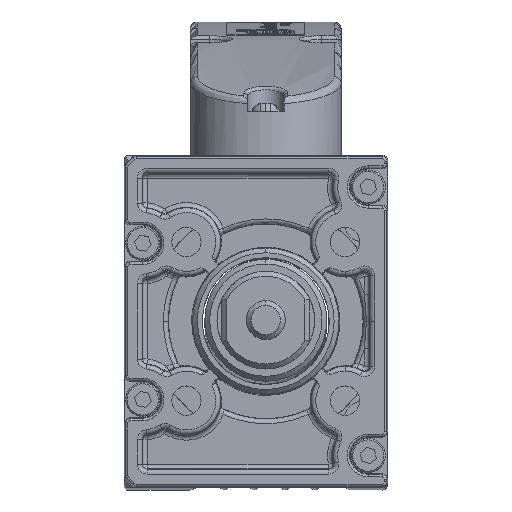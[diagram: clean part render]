
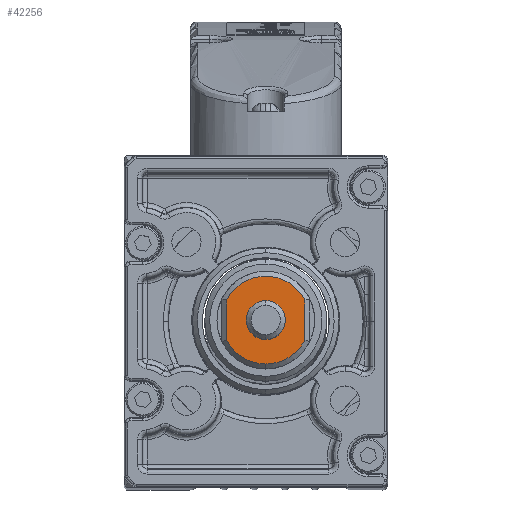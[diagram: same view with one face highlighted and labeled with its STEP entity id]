
A CAD part, top view. The second image highlights one B-rep face of the part: STEP entity #42256.
In plain terms, the highlighted planar face has unit normal (0, 0, 1) as drawn and (0, 0, -1) by its records, which use the part's own axes.
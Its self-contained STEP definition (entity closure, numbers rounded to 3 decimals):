
#1499 = CIRCLE ( 'NONE', #1506, 9. ) ;
#1506 = AXIS2_PLACEMENT_3D ( 'NONE', #11623, #11624, #11625 ) ;
#1552 = CIRCLE ( 'NONE', #1557, 4. ) ;
#1557 = AXIS2_PLACEMENT_3D ( 'NONE', #11675, #11676, #11677 ) ;
#1723 = CIRCLE ( 'NONE', #1727, 9. ) ;
#1725 = VECTOR ( 'NONE', #11830, 1000. ) ;
#1727 = AXIS2_PLACEMENT_3D ( 'NONE', #11827, #11828, #11829 ) ;
#1729 = CIRCLE ( 'NONE', #1734, 9. ) ;
#1732 = VECTOR ( 'NONE', #11834, 1000. ) ;
#1734 = AXIS2_PLACEMENT_3D ( 'NONE', #11831, #11832, #11833 ) ;
#1736 = CIRCLE ( 'NONE', #1740, 4. ) ;
#1740 = AXIS2_PLACEMENT_3D ( 'NONE', #11835, #11836, #11837 ) ;
#2019 = FACE_BOUND ( 'NONE', #73642, .T. ) ;
#2023 = FACE_OUTER_BOUND ( 'NONE', #73647, .T. ) ;
#2025 = CARTESIAN_POINT ( 'NONE',  ( 10., 0., -571. ) ) ;
#2033 = PLANE ( 'NONE',  #54598 ) ;
#2035 = DIRECTION ( 'NONE',  ( 0., 0., -1. ) ) ;
#2037 = DIRECTION ( 'NONE',  ( -1., 0., 0. ) ) ;
#8683 = VERTEX_POINT ( 'NONE', #72064 ) ;
#8685 = VERTEX_POINT ( 'NONE', #72066 ) ;
#8718 = VERTEX_POINT ( 'NONE', #72099 ) ;
#8812 = VERTEX_POINT ( 'NONE', #72193 ) ;
#8927 = VERTEX_POINT ( 'NONE', #72308 ) ;
#8929 = VERTEX_POINT ( 'NONE', #72310 ) ;
#9008 = VERTEX_POINT ( 'NONE', #72389 ) ;
#11623 = CARTESIAN_POINT ( 'NONE',  ( 0., 0., -571. ) ) ;
#11624 = DIRECTION ( 'NONE',  ( 0., 0., -1. ) ) ;
#11625 = DIRECTION ( 'NONE',  ( -1., 0., 0. ) ) ;
#11675 = CARTESIAN_POINT ( 'NONE',  ( 0., 0., -571. ) ) ;
#11676 = DIRECTION ( 'NONE',  ( 0., 0., 1. ) ) ;
#11677 = DIRECTION ( 'NONE',  ( 1., 0., 0. ) ) ;
#11818 = LINE ( 'NONE', #11819, #1725 ) ;
#11819 = CARTESIAN_POINT ( 'NONE',  ( 4.359, 8., -571. ) ) ;
#11825 = LINE ( 'NONE', #11826, #1732 ) ;
#11826 = CARTESIAN_POINT ( 'NONE',  ( -4.359, -8., -571. ) ) ;
#11827 = CARTESIAN_POINT ( 'NONE',  ( 0., 0., -571. ) ) ;
#11828 = DIRECTION ( 'NONE',  ( 0., 0., -1. ) ) ;
#11829 = DIRECTION ( 'NONE',  ( -1., 0., 0. ) ) ;
#11830 = DIRECTION ( 'NONE',  ( 1., 0., 0. ) ) ;
#11831 = CARTESIAN_POINT ( 'NONE',  ( 0., 0., -571. ) ) ;
#11832 = DIRECTION ( 'NONE',  ( 0., 0., -1. ) ) ;
#11833 = DIRECTION ( 'NONE',  ( -1., 0., 0. ) ) ;
#11834 = DIRECTION ( 'NONE',  ( -1., 0., 0. ) ) ;
#11835 = CARTESIAN_POINT ( 'NONE',  ( 0., 0., -571. ) ) ;
#11836 = DIRECTION ( 'NONE',  ( 0., 0., 1. ) ) ;
#11837 = DIRECTION ( 'NONE',  ( 1., 0., 0. ) ) ;
#42256 = ADVANCED_FACE ( 'NONE', ( #2023, #2019 ), #2033, .T. ) ;
#51903 = EDGE_CURVE ( 'NONE', #9008, #8929, #1499, .T. ) ;
#51920 = EDGE_CURVE ( 'NONE', #8927, #8812, #1552, .T. ) ;
#51970 = EDGE_CURVE ( 'NONE', #8683, #8718, #1723, .T. ) ;
#51971 = EDGE_CURVE ( 'NONE', #8718, #8685, #11818, .T. ) ;
#51972 = EDGE_CURVE ( 'NONE', #8685, #9008, #1729, .T. ) ;
#51973 = EDGE_CURVE ( 'NONE', #8929, #8683, #11825, .T. ) ;
#51974 = EDGE_CURVE ( 'NONE', #8812, #8927, #1736, .T. ) ;
#54598 = AXIS2_PLACEMENT_3D ( 'NONE', #2025, #2035, #2037 ) ;
#56034 = ORIENTED_EDGE ( 'NONE', *, *, #51974, .T. ) ;
#56036 = ORIENTED_EDGE ( 'NONE', *, *, #51920, .T. ) ;
#56037 = ORIENTED_EDGE ( 'NONE', *, *, #51973, .T. ) ;
#56039 = ORIENTED_EDGE ( 'NONE', *, *, #51903, .T. ) ;
#56041 = ORIENTED_EDGE ( 'NONE', *, *, #51972, .T. ) ;
#56043 = ORIENTED_EDGE ( 'NONE', *, *, #51971, .T. ) ;
#56044 = ORIENTED_EDGE ( 'NONE', *, *, #51970, .T. ) ;
#72064 = CARTESIAN_POINT ( 'NONE',  ( -4.123, -8., -571. ) ) ;
#72066 = CARTESIAN_POINT ( 'NONE',  ( 4.123, 8., -571. ) ) ;
#72099 = CARTESIAN_POINT ( 'NONE',  ( -4.123, 8., -571. ) ) ;
#72193 = CARTESIAN_POINT ( 'NONE',  ( -4., 0., -571. ) ) ;
#72308 = CARTESIAN_POINT ( 'NONE',  ( 4., 0., -571. ) ) ;
#72310 = CARTESIAN_POINT ( 'NONE',  ( 4.123, -8., -571. ) ) ;
#72389 = CARTESIAN_POINT ( 'NONE',  ( 9., 0., -571. ) ) ;
#73642 = EDGE_LOOP ( 'NONE', ( #56036, #56034 ) ) ;
#73647 = EDGE_LOOP ( 'NONE', ( #56044, #56043, #56041, #56039, #56037 ) ) ;
